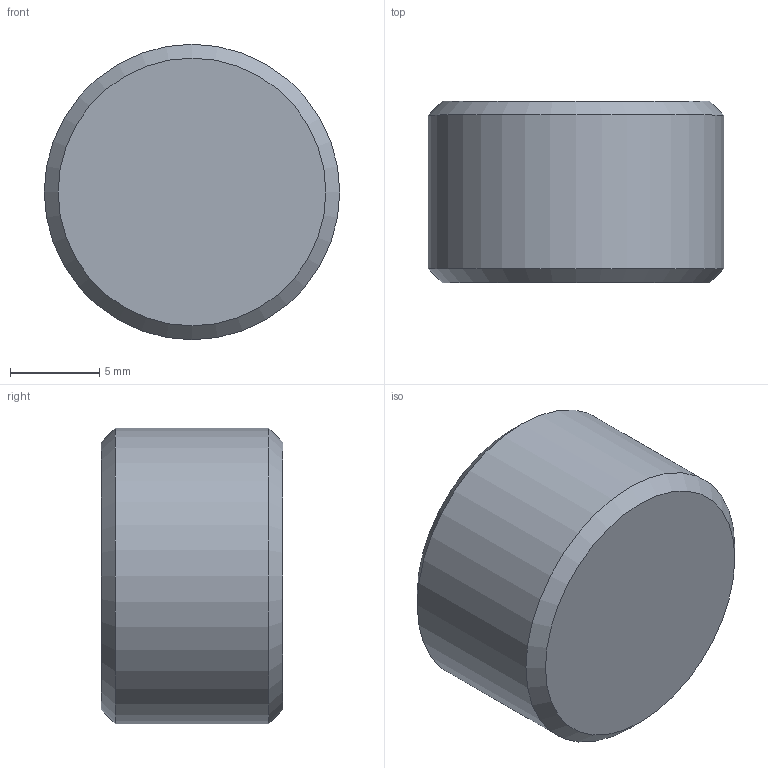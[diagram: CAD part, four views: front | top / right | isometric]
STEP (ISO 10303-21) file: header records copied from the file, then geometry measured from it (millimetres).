
FILE_DESCRIPTION(/* description */ (''),/* implementation_level */ '2;1');
FILE_NAME(/* name */ 'C:/Users/drich/Desktop/SSF-38 v1.step',/* time_stamp */ '2020-01-08T21:06:39-06:00',/* author */ (''),/* organization */ (''),/* preprocessor_version */ 'ST-DEVELOPER v18',/* originating_system */ 'Autodesk Translation Framework v8.12.0.6',/* authorisation */ '');
FILE_SCHEMA (('AUTOMOTIVE_DESIGN { 1 0 10303 214 3 1 1 }'));
Length unit declared in the file: inch
Products named in the file (1): SSF-38
Bounding box: 16.54 x 10.16 x 16.54 mm (x, y, z)
Volume: 1771.9 mm3; surface area: 1086.4 mm2
Topology: 1 solids, 1 shells, 13 faces, 35 edges, 25 vertices
Faces by surface type: plane 9, cone 3, cylinder 1
Full cylindrical faces by diameter (mm): 16.537 x1
Entity records: 439 total; most frequent: CARTESIAN_POINT 98, ORIENTED_EDGE 70, DIRECTION 58, EDGE_CURVE 35, VERTEX_POINT 25, AXIS2_PLACEMENT_3D 21, LINE 16, VECTOR 16
